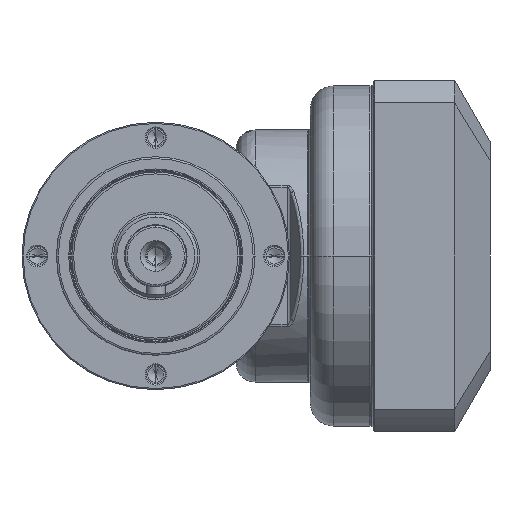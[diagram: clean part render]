
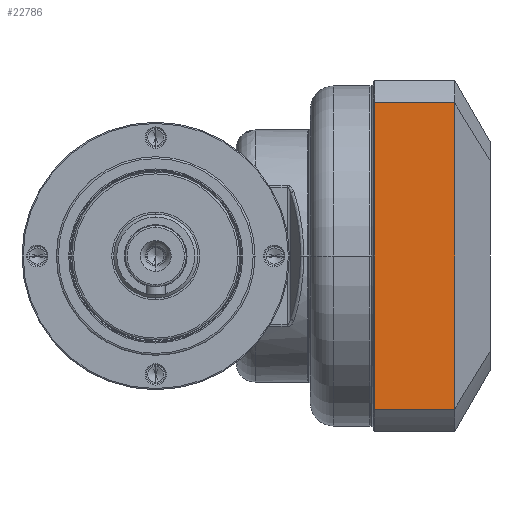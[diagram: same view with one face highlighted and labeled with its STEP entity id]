
A CAD part, left-side view. The second image highlights one B-rep face of the part: STEP entity #22786.
In plain terms, the highlighted planar face has unit normal (-1, 0, 0) as drawn and (0, -1, 0) by its records, which use the part's own axes.
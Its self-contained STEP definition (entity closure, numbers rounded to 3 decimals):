
#21549=DIRECTION('',(1.,0.,0.));
#21550=VECTOR('',#21549,80.125);
#21551=CARTESIAN_POINT('',(-40.062,-46.,23.762));
#21552=LINE('',#21551,#21550);
#21553=DIRECTION('',(0.,0.,1.));
#21554=VECTOR('',#21553,20.962);
#21555=CARTESIAN_POINT('',(40.062,-46.,
2.8));
#21556=LINE('',#21555,#21554);
#21557=DIRECTION('',(1.,0.,0.));
#21558=VECTOR('',#21557,80.125);
#21559=CARTESIAN_POINT('',(-40.062,-46.,
2.8));
#21560=LINE('',#21559,#21558);
#21561=DIRECTION('',(0.,0.,1.));
#21562=VECTOR('',#21561,20.962);
#21563=CARTESIAN_POINT('',(-40.062,-46.,
2.8));
#21564=LINE('',#21563,#21562);
#21570=CARTESIAN_POINT('',(40.062,-46.,23.762));
#21885=CARTESIAN_POINT('',(-40.062,-46.,2.8));
#21887=VERTEX_POINT('',#21885);
#21890=CARTESIAN_POINT('',(40.062,-46.,
2.8));
#21891=VERTEX_POINT('',#21890);
#21937=CARTESIAN_POINT('',(-40.062,-46.,23.762));
#21939=VERTEX_POINT('',#21937);
#21947=VERTEX_POINT('',#21570);
#22774=CARTESIAN_POINT('',(-46.,-46.,0.));
#22775=DIRECTION('',(0.,-1.,0.));
#22776=DIRECTION('',(1.,0.,0.));
#22777=AXIS2_PLACEMENT_3D('',#22774,#22775,#22776);
#22778=PLANE('',#22777);
#22780=ORIENTED_EDGE('',*,*,#22779,.T.);
#22781=ORIENTED_EDGE('',*,*,#22690,.F.);
#22782=ORIENTED_EDGE('',*,*,#22768,.F.);
#22783=ORIENTED_EDGE('',*,*,#22701,.T.);
#22784=EDGE_LOOP('',(#22780,#22781,#22782,#22783));
#22785=FACE_OUTER_BOUND('',#22784,.F.);
#22786=ADVANCED_FACE('',(#22785),#22778,.T.);
#22690=EDGE_CURVE('',#21891,#21947,#21556,.T.);
#22701=EDGE_CURVE('',#21887,#21939,#21564,.T.);
#22768=EDGE_CURVE('',#21887,#21891,#21560,.T.);
#22779=EDGE_CURVE('',#21939,#21947,#21552,.T.);
